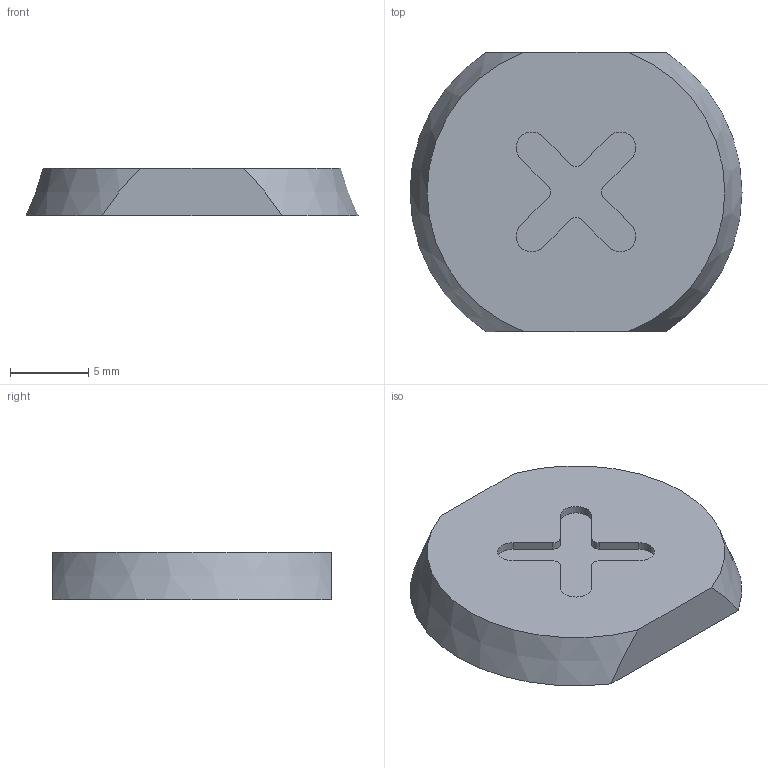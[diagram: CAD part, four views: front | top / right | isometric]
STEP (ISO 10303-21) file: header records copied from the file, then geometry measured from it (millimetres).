
FILE_DESCRIPTION(/* description */ (''),/* implementation_level */ '2;1');
FILE_NAME(/* name */ 'button_cap_tl.stp',/* time_stamp */ '2019-01-13T14:29:56+01:00',/* author */ (''),/* organization */ (''),/* preprocessor_version */ 'ST-DEVELOPER v16',/* originating_system */ 'SIEMENS PLM Software NX 11.0',/* authorisation */ '');
FILE_SCHEMA (('AUTOMOTIVE_DESIGN { 1 0 10303 214 3 1 1 1 }'));
Length unit declared in the file: millimetre
Products named in the file (1): button_cap_tl
Bounding box: 21.18 x 17.8 x 3 mm (x, y, z)
Volume: 878.4 mm3; surface area: 827.1 mm2
Topology: 1 solids, 1 shells, 25 faces, 63 edges, 42 vertices
Faces by surface type: plane 14, cylinder 9, cone 2
Full cylindrical faces by diameter (mm): 5 x1
Entity records: 782 total; most frequent: CARTESIAN_POINT 142, DIRECTION 132, ORIENTED_EDGE 124, EDGE_CURVE 62, AXIS2_PLACEMENT_3D 48, VERTEX_POINT 42, LINE 36, VECTOR 36
